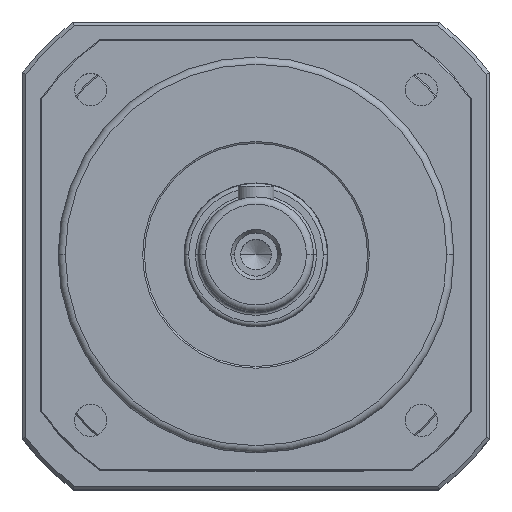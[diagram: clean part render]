
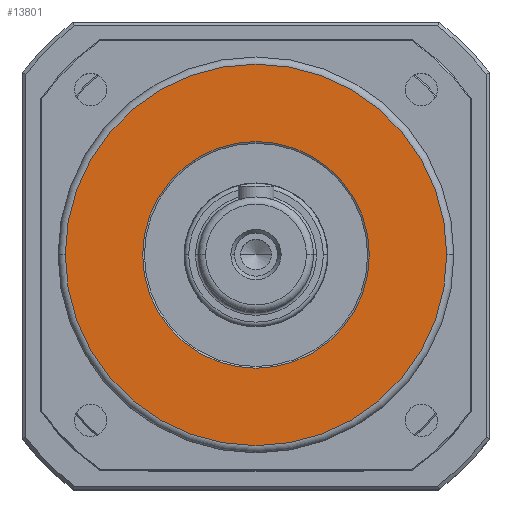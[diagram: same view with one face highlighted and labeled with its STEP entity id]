
A CAD part, top view. The second image highlights one B-rep face of the part: STEP entity #13801.
In plain terms, the highlighted planar face has unit normal (0, 0, 1).
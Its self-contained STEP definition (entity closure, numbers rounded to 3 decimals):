
#428 = FACE_BOUND ( 'NONE', #7787, .T. ) ;
#429 = FACE_OUTER_BOUND ( 'NONE', #7788, .T. ) ;
#999 = AXIS2_PLACEMENT_3D ( 'NONE', #1139, #1140, #1141 ) ;
#1002 = CIRCLE ( 'NONE', #1006, 31.5 ) ;
#1006 = AXIS2_PLACEMENT_3D ( 'NONE', #1316, #1317, #1318 ) ;
#1007 = CIRCLE ( 'NONE', #1008, 53. ) ;
#1008 = AXIS2_PLACEMENT_3D ( 'NONE', #1319, #1320, #1321 ) ;
#1021 = CIRCLE ( 'NONE', #1034, 53. ) ;
#1026 = CIRCLE ( 'NONE', #1027, 31.5 ) ;
#1027 = AXIS2_PLACEMENT_3D ( 'NONE', #1353, #1354, #1355 ) ;
#1034 = AXIS2_PLACEMENT_3D ( 'NONE', #1364, #1365, #1366 ) ;
#1138 = PLANE ( 'NONE',  #999 ) ;
#1139 = CARTESIAN_POINT ( 'NONE',  ( 0., 0., 12. ) ) ;
#1140 = DIRECTION ( 'NONE',  ( 0., 0., 1. ) ) ;
#1141 = DIRECTION ( 'NONE',  ( 1., 0., 0. ) ) ;
#1316 = CARTESIAN_POINT ( 'NONE',  ( 0., 0., 12. ) ) ;
#1317 = DIRECTION ( 'NONE',  ( 0., 0., -1. ) ) ;
#1318 = DIRECTION ( 'NONE',  ( 1., 0., 0. ) ) ;
#1319 = CARTESIAN_POINT ( 'NONE',  ( 0., 0., 12. ) ) ;
#1320 = DIRECTION ( 'NONE',  ( 0., 0., 1. ) ) ;
#1321 = DIRECTION ( 'NONE',  ( 1., 0., 0. ) ) ;
#1353 = CARTESIAN_POINT ( 'NONE',  ( 0., 0., 12. ) ) ;
#1354 = DIRECTION ( 'NONE',  ( 0., 0., -1. ) ) ;
#1355 = DIRECTION ( 'NONE',  ( 1., 0., 0. ) ) ;
#1364 = CARTESIAN_POINT ( 'NONE',  ( 0., 0., 12. ) ) ;
#1365 = DIRECTION ( 'NONE',  ( 0., 0., 1. ) ) ;
#1366 = DIRECTION ( 'NONE',  ( 1., 0., 0. ) ) ;
#3773 = ORIENTED_EDGE ( 'NONE', *, *, #13832, .T. ) ;
#3775 = ORIENTED_EDGE ( 'NONE', *, *, #13815, .T. ) ;
#3776 = ORIENTED_EDGE ( 'NONE', *, *, #13816, .T. ) ;
#3777 = ORIENTED_EDGE ( 'NONE', *, *, #13836, .T. ) ;
#4691 = VERTEX_POINT ( 'NONE', #13232 ) ;
#4692 = VERTEX_POINT ( 'NONE', #13233 ) ;
#4695 = VERTEX_POINT ( 'NONE', #13236 ) ;
#4696 = VERTEX_POINT ( 'NONE', #13237 ) ;
#7787 = EDGE_LOOP ( 'NONE', ( #3773, #3775 ) ) ;
#7788 = EDGE_LOOP ( 'NONE', ( #3777, #3776 ) ) ;
#13232 = CARTESIAN_POINT ( 'NONE',  ( 53., 0., 12. ) ) ;
#13233 = CARTESIAN_POINT ( 'NONE',  ( -53., 0., 12. ) ) ;
#13236 = CARTESIAN_POINT ( 'NONE',  ( 31.5, 0., 12. ) ) ;
#13237 = CARTESIAN_POINT ( 'NONE',  ( -31.5, 0., 12. ) ) ;
#13801 = ADVANCED_FACE ( 'NONE', ( #428, #429 ), #1138, .T. ) ;
#13815 = EDGE_CURVE ( 'NONE', #4696, #4695, #1002, .T. ) ;
#13816 = EDGE_CURVE ( 'NONE', #4692, #4691, #1007, .T. ) ;
#13832 = EDGE_CURVE ( 'NONE', #4695, #4696, #1026, .T. ) ;
#13836 = EDGE_CURVE ( 'NONE', #4691, #4692, #1021, .T. ) ;
